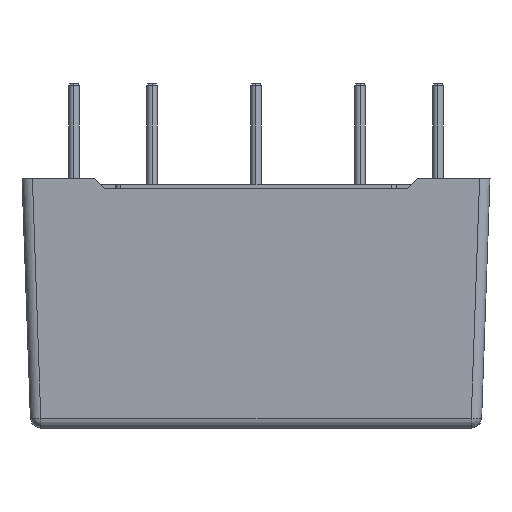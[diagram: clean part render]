
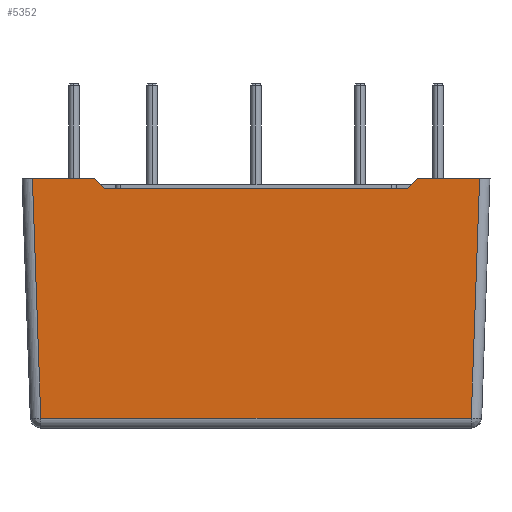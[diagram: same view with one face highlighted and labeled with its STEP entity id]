
A CAD part, left-side view. The second image highlights one B-rep face of the part: STEP entity #5352.
In plain terms, the highlighted planar face has unit normal (-0.999, 0, -0.035).
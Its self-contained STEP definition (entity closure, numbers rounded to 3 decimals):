
#140 = VERTEX_POINT ( 'NONE', #4489 ) ;
#415 = DIRECTION ( 'NONE',  ( -0.035, 0., 0.999 ) ) ;
#702 = ORIENTED_EDGE ( 'NONE', *, *, #9855, .F. ) ;
#793 = AXIS2_PLACEMENT_3D ( 'NONE', #9660, #5029, #415 ) ;
#1099 = ORIENTED_EDGE ( 'NONE', *, *, #4328, .F. ) ;
#1234 = EDGE_CURVE ( 'NONE', #9060, #6757, #3805, .T. ) ;
#1310 = ORIENTED_EDGE ( 'NONE', *, *, #7359, .F. ) ;
#1732 = CARTESIAN_POINT ( 'NONE',  ( 0., 7., 24. ) ) ;
#1756 = VECTOR ( 'NONE', #9742, 1000. ) ;
#1808 = EDGE_LOOP ( 'NONE', ( #7430, #1310, #9906, #3802, #1099, #702, #4431, #9461 ) ) ;
#1818 = VECTOR ( 'NONE', #4950, 1000. ) ;
#1832 = CARTESIAN_POINT ( 'NONE',  ( 0., 22.5, 24. ) ) ;
#2227 = DIRECTION ( 'NONE',  ( 0.035, -0.035, -0.999 ) ) ;
#2351 = CARTESIAN_POINT ( 'NONE',  ( 0., 22.5, 24. ) ) ;
#2628 = CARTESIAN_POINT ( 'NONE',  ( 0., 7., 24. ) ) ;
#2704 = VECTOR ( 'NONE', #6723, 1000. ) ;
#2972 = DIRECTION ( 'NONE',  ( -0.035, -0.035, 0.999 ) ) ;
#3200 = CARTESIAN_POINT ( 'NONE',  ( 0.804, 1.804, 0.965 ) ) ;
#3365 = EDGE_CURVE ( 'NONE', #7907, #5422, #8357, .T. ) ;
#3502 = FACE_OUTER_BOUND ( 'NONE', #1808, .T. ) ;
#3566 = CARTESIAN_POINT ( 'NONE',  ( 0.804, 0., 0.965 ) ) ;
#3611 = VERTEX_POINT ( 'NONE', #9033 ) ;
#3802 = ORIENTED_EDGE ( 'NONE', *, *, #8853, .F. ) ;
#3805 = LINE ( 'NONE', #3566, #1756 ) ;
#3871 = LINE ( 'NONE', #1832, #1818 ) ;
#4273 = EDGE_CURVE ( 'NONE', #4626, #9060, #8926, .T. ) ;
#4328 = EDGE_CURVE ( 'NONE', #3611, #140, #9170, .T. ) ;
#4431 = ORIENTED_EDGE ( 'NONE', *, *, #4273, .T. ) ;
#4465 = CARTESIAN_POINT ( 'NONE',  ( 0.804, 1.804, 0.965 ) ) ;
#4489 = CARTESIAN_POINT ( 'NONE',  ( 0.035, 37.034, 23. ) ) ;
#4573 = VECTOR ( 'NONE', #8443, 1000. ) ;
#4626 = VERTEX_POINT ( 'NONE', #4839 ) ;
#4839 = CARTESIAN_POINT ( 'NONE',  ( 0., 44.001, 24. ) ) ;
#4950 = DIRECTION ( 'NONE',  ( 0., -1., 0. ) ) ;
#5029 = DIRECTION ( 'NONE',  ( -0.999, 0., -0.035 ) ) ;
#5352 = ADVANCED_FACE ( 'NONE', ( #3502 ), #5787, .T. ) ;
#5422 = VERTEX_POINT ( 'NONE', #7453 ) ;
#5584 = VECTOR ( 'NONE', #8534, 1000. ) ;
#5787 = PLANE ( 'NONE',  #793 ) ;
#5948 = CARTESIAN_POINT ( 'NONE',  ( 0.035, 22.5, 23. ) ) ;
#6723 = DIRECTION ( 'NONE',  ( 0., -1., 0. ) ) ;
#6757 = VERTEX_POINT ( 'NONE', #3200 ) ;
#6876 = VECTOR ( 'NONE', #2227, 1000. ) ;
#7115 = EDGE_CURVE ( 'NONE', #6757, #8958, #7397, .T. ) ;
#7359 = EDGE_CURVE ( 'NONE', #7907, #8958, #7612, .T. ) ;
#7397 = LINE ( 'NONE', #4465, #9211 ) ;
#7430 = ORIENTED_EDGE ( 'NONE', *, *, #7115, .T. ) ;
#7453 = CARTESIAN_POINT ( 'NONE',  ( 0.035, 7.966, 23. ) ) ;
#7612 = LINE ( 'NONE', #2351, #5584 ) ;
#7655 = CARTESIAN_POINT ( 'NONE',  ( 0., 38., 24. ) ) ;
#7711 = CARTESIAN_POINT ( 'NONE',  ( 0.804, 43.196, 0.965 ) ) ;
#7907 = VERTEX_POINT ( 'NONE', #1732 ) ;
#8110 = VECTOR ( 'NONE', #8810, 1000. ) ;
#8357 = LINE ( 'NONE', #2628, #8110 ) ;
#8371 = CARTESIAN_POINT ( 'NONE',  ( 0., 44.001, 24. ) ) ;
#8443 = DIRECTION ( 'NONE',  ( 0.025, -0.694, -0.719 ) ) ;
#8534 = DIRECTION ( 'NONE',  ( 0., -1., 0. ) ) ;
#8810 = DIRECTION ( 'NONE',  ( 0.025, 0.694, -0.719 ) ) ;
#8853 = EDGE_CURVE ( 'NONE', #140, #5422, #8868, .T. ) ;
#8868 = LINE ( 'NONE', #5948, #2704 ) ;
#8926 = LINE ( 'NONE', #8371, #6876 ) ;
#8958 = VERTEX_POINT ( 'NONE', #9148 ) ;
#9033 = CARTESIAN_POINT ( 'NONE',  ( 0., 38., 24. ) ) ;
#9060 = VERTEX_POINT ( 'NONE', #7711 ) ;
#9148 = CARTESIAN_POINT ( 'NONE',  ( 0., 0.999, 24. ) ) ;
#9170 = LINE ( 'NONE', #7655, #4573 ) ;
#9211 = VECTOR ( 'NONE', #2972, 1000. ) ;
#9461 = ORIENTED_EDGE ( 'NONE', *, *, #1234, .T. ) ;
#9660 = CARTESIAN_POINT ( 'NONE',  ( 0.838, 0., 0.015 ) ) ;
#9742 = DIRECTION ( 'NONE',  ( 0., -1., 0. ) ) ;
#9855 = EDGE_CURVE ( 'NONE', #4626, #3611, #3871, .T. ) ;
#9906 = ORIENTED_EDGE ( 'NONE', *, *, #3365, .T. ) ;
